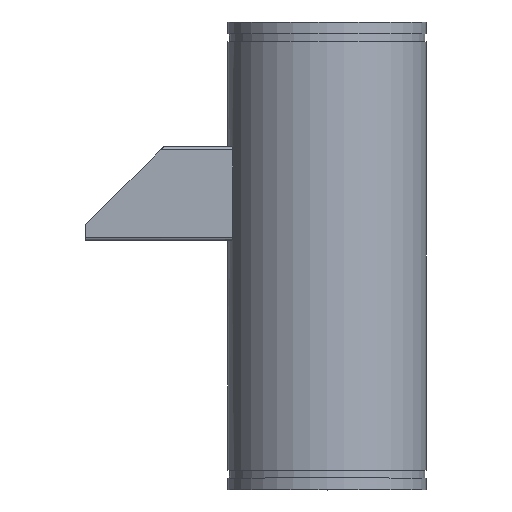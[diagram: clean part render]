
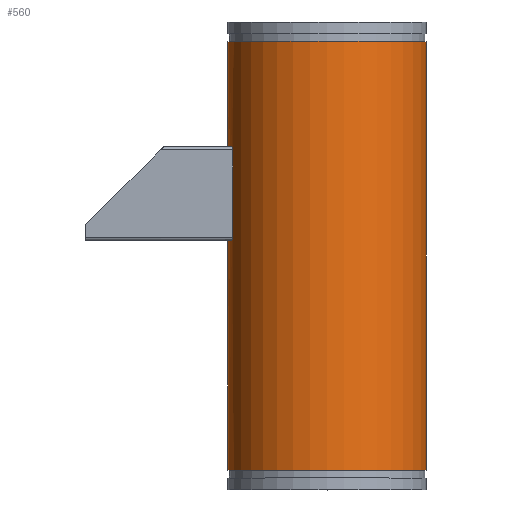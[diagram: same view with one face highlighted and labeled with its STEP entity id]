
A CAD part, top view. The second image highlights one B-rep face of the part: STEP entity #560.
In plain terms, the highlighted cylindrical face has radius 161.925 mm (diameter 323.85 mm), a full revolution.
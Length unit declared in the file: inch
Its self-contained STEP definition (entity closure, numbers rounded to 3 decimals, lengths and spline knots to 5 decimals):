
#22=CIRCLE('',#603,6.375);
#23=CIRCLE('',#604,6.375);
#32=CIRCLE('',#621,6.375);
#33=CIRCLE('',#622,6.375);
#34=CIRCLE('',#623,6.375);
#35=CIRCLE('',#624,6.375);
#36=CIRCLE('',#625,6.375);
#37=CIRCLE('',#626,6.375);
#83=FACE_OUTER_BOUND('',#111,.T.);
#111=EDGE_LOOP('',(#407,#408,#409,#410,#411,#412,#413,#414,#415,#416,#417,
#418,#419,#420,#421,#422,#423,#424));
#136=B_SPLINE_CURVE_WITH_KNOTS('',3,(#837,#838,#839,#840,#841,#842,#843,
#844,#845,#846),.UNSPECIFIED.,.F.,.F.,(4,2,2,2,4),(0.,0.19105,
0.38211,0.5828,0.7835),.UNSPECIFIED.);
#137=B_SPLINE_CURVE_WITH_KNOTS('',3,(#863,#864,#865,#866,#867,#868,#869,
#870,#871,#872),.UNSPECIFIED.,.F.,.F.,(4,2,2,2,4),(-0.7835,-0.5828,
-0.38211,-0.19105,0.),.UNSPECIFIED.);
#138=B_SPLINE_CURVE_WITH_KNOTS('',3,(#883,#884,#885,#886,#887,#888,#889,
#890,#891,#892),.UNSPECIFIED.,.F.,.F.,(4,2,2,2,4),(0.78016,0.98086,
1.18155,1.3726,1.56366),.UNSPECIFIED.);
#139=B_SPLINE_CURVE_WITH_KNOTS('',3,(#914,#915,#916,#917,#918,#919,#920,
#921,#922,#923),.UNSPECIFIED.,.F.,.F.,(4,2,2,2,4),(1.56366,1.75471,
1.94577,2.14646,2.34715),.UNSPECIFIED.);
#142=LINE('',#850,#180);
#160=LINE('',#927,#198);
#167=LINE('',#959,#205);
#168=LINE('',#962,#206);
#180=VECTOR('',#671,0.3937);
#198=VECTOR('',#711,0.3937);
#205=VECTOR('',#742,6.375);
#206=VECTOR('',#745,6.375);
#220=VERTEX_POINT('',#834);
#221=VERTEX_POINT('',#836);
#222=VERTEX_POINT('',#849);
#227=VERTEX_POINT('',#860);
#228=VERTEX_POINT('',#862);
#229=VERTEX_POINT('',#876);
#231=VERTEX_POINT('',#882);
#239=VERTEX_POINT('',#911);
#240=VERTEX_POINT('',#913);
#251=VERTEX_POINT('',#954);
#252=VERTEX_POINT('',#955);
#253=VERTEX_POINT('',#958);
#254=VERTEX_POINT('',#961);
#255=VERTEX_POINT('',#963);
#276=EDGE_CURVE('',#220,#221,#136,.F.);
#278=EDGE_CURVE('',#222,#221,#142,.T.);
#284=EDGE_CURVE('',#227,#228,#137,.F.);
#287=EDGE_CURVE('',#229,#228,#22,.T.);
#288=EDGE_CURVE('',#220,#229,#23,.T.);
#290=EDGE_CURVE('',#222,#231,#138,.F.);
#301=EDGE_CURVE('',#239,#240,#139,.F.);
#304=EDGE_CURVE('',#227,#240,#160,.T.);
#317=EDGE_CURVE('',#251,#252,#32,.T.);
#318=EDGE_CURVE('',#252,#251,#33,.T.);
#319=EDGE_CURVE('',#252,#253,#167,.T.);
#320=EDGE_CURVE('',#253,#231,#34,.T.);
#321=EDGE_CURVE('',#229,#254,#168,.T.);
#322=EDGE_CURVE('',#254,#255,#35,.T.);
#323=EDGE_CURVE('',#255,#254,#36,.T.);
#324=EDGE_CURVE('',#239,#253,#37,.T.);
#407=ORIENTED_EDGE('',*,*,#317,.F.);
#408=ORIENTED_EDGE('',*,*,#318,.F.);
#409=ORIENTED_EDGE('',*,*,#319,.T.);
#410=ORIENTED_EDGE('',*,*,#320,.T.);
#411=ORIENTED_EDGE('',*,*,#290,.F.);
#412=ORIENTED_EDGE('',*,*,#278,.T.);
#413=ORIENTED_EDGE('',*,*,#276,.F.);
#414=ORIENTED_EDGE('',*,*,#288,.T.);
#415=ORIENTED_EDGE('',*,*,#321,.T.);
#416=ORIENTED_EDGE('',*,*,#322,.T.);
#417=ORIENTED_EDGE('',*,*,#323,.T.);
#418=ORIENTED_EDGE('',*,*,#321,.F.);
#419=ORIENTED_EDGE('',*,*,#287,.T.);
#420=ORIENTED_EDGE('',*,*,#284,.F.);
#421=ORIENTED_EDGE('',*,*,#304,.T.);
#422=ORIENTED_EDGE('',*,*,#301,.F.);
#423=ORIENTED_EDGE('',*,*,#324,.T.);
#424=ORIENTED_EDGE('',*,*,#319,.F.);
#514=CYLINDRICAL_SURFACE('',#620,6.375);
#560=ADVANCED_FACE('',(#83),#514,.T.);
#603=AXIS2_PLACEMENT_3D('',#877,#684,#685);
#604=AXIS2_PLACEMENT_3D('',#878,#686,#687);
#620=AXIS2_PLACEMENT_3D('',#953,#736,#737);
#621=AXIS2_PLACEMENT_3D('',#956,#738,#739);
#622=AXIS2_PLACEMENT_3D('',#957,#740,#741);
#623=AXIS2_PLACEMENT_3D('',#960,#743,#744);
#624=AXIS2_PLACEMENT_3D('',#964,#746,#747);
#625=AXIS2_PLACEMENT_3D('',#965,#748,#749);
#626=AXIS2_PLACEMENT_3D('',#966,#750,#751);
#671=DIRECTION('',(0.,1.,0.));
#684=DIRECTION('center_axis',(0.,1.,0.));
#685=DIRECTION('ref_axis',(1.,0.,0.));
#686=DIRECTION('center_axis',(0.,1.,0.));
#687=DIRECTION('ref_axis',(1.,0.,0.));
#711=DIRECTION('',(0.,-1.,0.));
#736=DIRECTION('center_axis',(0.,-1.,0.));
#737=DIRECTION('ref_axis',(1.,0.,0.));
#738=DIRECTION('center_axis',(0.,-1.,0.));
#739=DIRECTION('ref_axis',(1.,0.,0.));
#740=DIRECTION('center_axis',(0.,-1.,0.));
#741=DIRECTION('ref_axis',(1.,0.,0.));
#742=DIRECTION('',(0.,1.,0.));
#743=DIRECTION('center_axis',(0.,-1.,0.));
#744=DIRECTION('ref_axis',(1.,0.,0.));
#745=DIRECTION('',(0.,1.,0.));
#746=DIRECTION('center_axis',(0.,-1.,0.));
#747=DIRECTION('ref_axis',(1.,0.,0.));
#748=DIRECTION('center_axis',(0.,-1.,0.));
#749=DIRECTION('ref_axis',(1.,0.,0.));
#750=DIRECTION('center_axis',(0.,-1.,0.));
#751=DIRECTION('ref_axis',(1.,0.,0.));
#834=CARTESIAN_POINT('',(-6.11561,22.,-1.8));
#836=CARTESIAN_POINT('',(-6.05315,21.8,-2.));
#837=CARTESIAN_POINT('Ctrl Pts',(-6.05315,21.8,-2.));
#838=CARTESIAN_POINT('Ctrl Pts',(-6.05315,21.82507,-2.));
#839=CARTESIAN_POINT('Ctrl Pts',(-6.05481,21.85172,-1.99499));
#840=CARTESIAN_POINT('Ctrl Pts',(-6.06139,21.90051,-1.97491));
#841=CARTESIAN_POINT('Ctrl Pts',(-6.0663,21.92267,-1.95984));
#842=CARTESIAN_POINT('Ctrl Pts',(-6.07754,21.95847,-1.9247));
#843=CARTESIAN_POINT('Ctrl Pts',(-6.08473,21.97416,-1.90194));
#844=CARTESIAN_POINT('Ctrl Pts',(-6.10005,21.99493,-1.85223));
#845=CARTESIAN_POINT('Ctrl Pts',(-6.10817,22.,-1.82527));
#846=CARTESIAN_POINT('Ctrl Pts',(-6.11561,22.,-1.8));
#849=CARTESIAN_POINT('',(-6.05315,16.2,-2.));
#850=CARTESIAN_POINT('',(-6.05315,15.,-2.));
#860=CARTESIAN_POINT('',(-6.05315,21.8,2.));
#862=CARTESIAN_POINT('',(-6.11561,22.,1.8));
#863=CARTESIAN_POINT('Ctrl Pts',(-6.11561,22.,1.8));
#864=CARTESIAN_POINT('Ctrl Pts',(-6.10817,22.,1.82527));
#865=CARTESIAN_POINT('Ctrl Pts',(-6.10005,21.99493,1.85223));
#866=CARTESIAN_POINT('Ctrl Pts',(-6.08473,21.97416,1.90194));
#867=CARTESIAN_POINT('Ctrl Pts',(-6.07754,21.95847,1.9247));
#868=CARTESIAN_POINT('Ctrl Pts',(-6.0663,21.92267,1.95984));
#869=CARTESIAN_POINT('Ctrl Pts',(-6.06139,21.90051,1.97491));
#870=CARTESIAN_POINT('Ctrl Pts',(-6.05481,21.85172,1.99499));
#871=CARTESIAN_POINT('Ctrl Pts',(-6.05315,21.82507,2.));
#872=CARTESIAN_POINT('Ctrl Pts',(-6.05315,21.8,2.));
#876=CARTESIAN_POINT('',(-6.375,22.,0.));
#877=CARTESIAN_POINT('Origin',(0.,22.,0.));
#878=CARTESIAN_POINT('Origin',(0.,22.,0.));
#882=CARTESIAN_POINT('',(-6.11561,16.,-1.8));
#883=CARTESIAN_POINT('Ctrl Pts',(-6.11561,16.,-1.8));
#884=CARTESIAN_POINT('Ctrl Pts',(-6.10817,16.,-1.82527));
#885=CARTESIAN_POINT('Ctrl Pts',(-6.10005,16.00507,-1.85223));
#886=CARTESIAN_POINT('Ctrl Pts',(-6.08473,16.02584,-1.90194));
#887=CARTESIAN_POINT('Ctrl Pts',(-6.07754,16.04153,-1.9247));
#888=CARTESIAN_POINT('Ctrl Pts',(-6.0663,16.07733,-1.95984));
#889=CARTESIAN_POINT('Ctrl Pts',(-6.06139,16.09949,-1.97491));
#890=CARTESIAN_POINT('Ctrl Pts',(-6.05481,16.14828,-1.99499));
#891=CARTESIAN_POINT('Ctrl Pts',(-6.05315,16.17493,-2.));
#892=CARTESIAN_POINT('Ctrl Pts',(-6.05315,16.2,-2.));
#911=CARTESIAN_POINT('',(-6.11561,16.,1.8));
#913=CARTESIAN_POINT('',(-6.05315,16.2,2.));
#914=CARTESIAN_POINT('Ctrl Pts',(-6.05315,16.2,2.));
#915=CARTESIAN_POINT('Ctrl Pts',(-6.05315,16.17493,2.));
#916=CARTESIAN_POINT('Ctrl Pts',(-6.05481,16.14828,1.99499));
#917=CARTESIAN_POINT('Ctrl Pts',(-6.06139,16.09949,1.97491));
#918=CARTESIAN_POINT('Ctrl Pts',(-6.0663,16.07733,1.95984));
#919=CARTESIAN_POINT('Ctrl Pts',(-6.07754,16.04153,1.9247));
#920=CARTESIAN_POINT('Ctrl Pts',(-6.08473,16.02584,1.90194));
#921=CARTESIAN_POINT('Ctrl Pts',(-6.10005,16.00507,1.85223));
#922=CARTESIAN_POINT('Ctrl Pts',(-6.10817,16.,1.82527));
#923=CARTESIAN_POINT('Ctrl Pts',(-6.11561,16.,1.8));
#927=CARTESIAN_POINT('',(-6.05315,15.,2.));
#953=CARTESIAN_POINT('Origin',(0.,15.,0.));
#954=CARTESIAN_POINT('',(6.375,1.25,0.));
#955=CARTESIAN_POINT('',(-6.375,1.25,0.));
#956=CARTESIAN_POINT('Origin',(0.,1.25,0.));
#957=CARTESIAN_POINT('Origin',(0.,1.25,0.));
#958=CARTESIAN_POINT('',(-6.375,16.,0.));
#959=CARTESIAN_POINT('',(-6.375,15.,0.));
#960=CARTESIAN_POINT('Origin',(0.,16.,0.));
#961=CARTESIAN_POINT('',(-6.375,28.75,0.));
#962=CARTESIAN_POINT('',(-6.375,15.,0.));
#963=CARTESIAN_POINT('',(6.375,28.75,0.));
#964=CARTESIAN_POINT('Origin',(0.,28.75,0.));
#965=CARTESIAN_POINT('Origin',(0.,28.75,0.));
#966=CARTESIAN_POINT('Origin',(0.,16.,0.));
